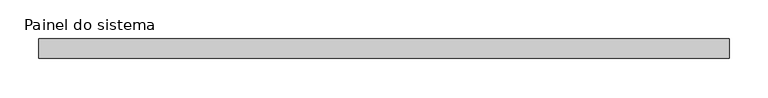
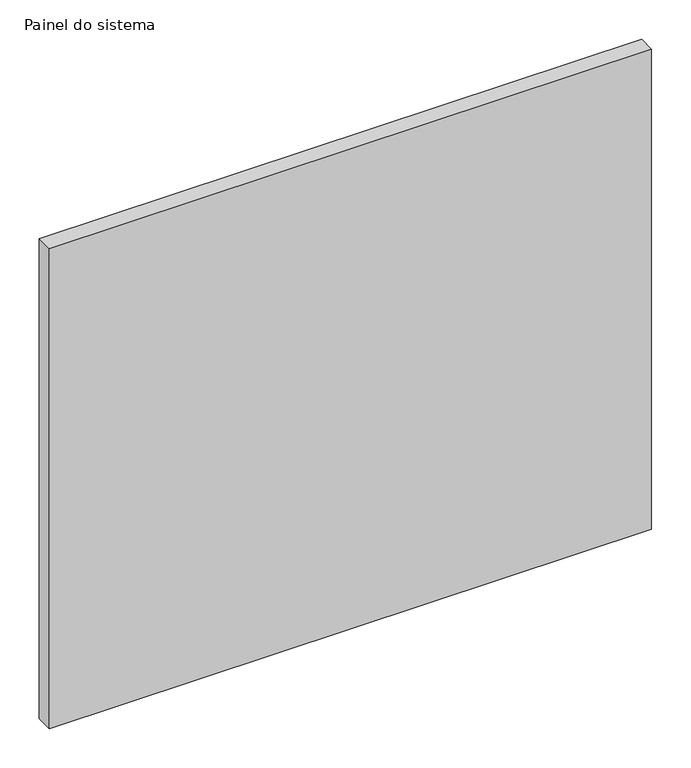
"""IFC4 building model written with IfcOpenShell, lengths in millimetres: plate geometry, Painel do sistema : Envidraçado."""

from ifc_helpers import new_model, si_unit, origin, origin_with_axes, place, context, project, spatial, polyline, outline, extrude, source, transform, mapped, element, save


def painel_do_sistema_4f383549(model_context):
    return source(origin(), model_context, "Body", "SweptSolid", [
        extrude(outline(polyline([(442.5, 24.5), (-442.5, 24.5), (-442.5, 49.5), (442.5, 49.5), (442.5, 24.5)])), origin_with_axes(), (0.0, 0.0, 1.0), 745.0),
    ])


if __name__ == "__main__":
    model = new_model("IFC4")
    model_context = context("Model", 3, world=origin())
    ifc_project = project(units=[si_unit("LENGTHUNIT", "METRE", prefix="MILLI")], contexts=[model_context])
    site = spatial("IfcSite", under=ifc_project)
    building = spatial("IfcBuilding", under=site)
    placement = place(None, origin())
    painel_do_sistema_shape = painel_do_sistema_4f383549(model_context)
    element("IfcPlate", 1, ObjectType="Painel do sistema : Envidraçado", at=placement, inside=building, context=model_context, shape_type="MappedRepresentation", body=[
        mapped(painel_do_sistema_shape, transform((0.0, 0.0, 0.0), x_axis=(1.0, 0.0, 0.0), y_axis=(0.0, 1.0, 0.0), z_axis=(0.0, 0.0, 1.0))),
    ])
    save(model, "model.ifc")
